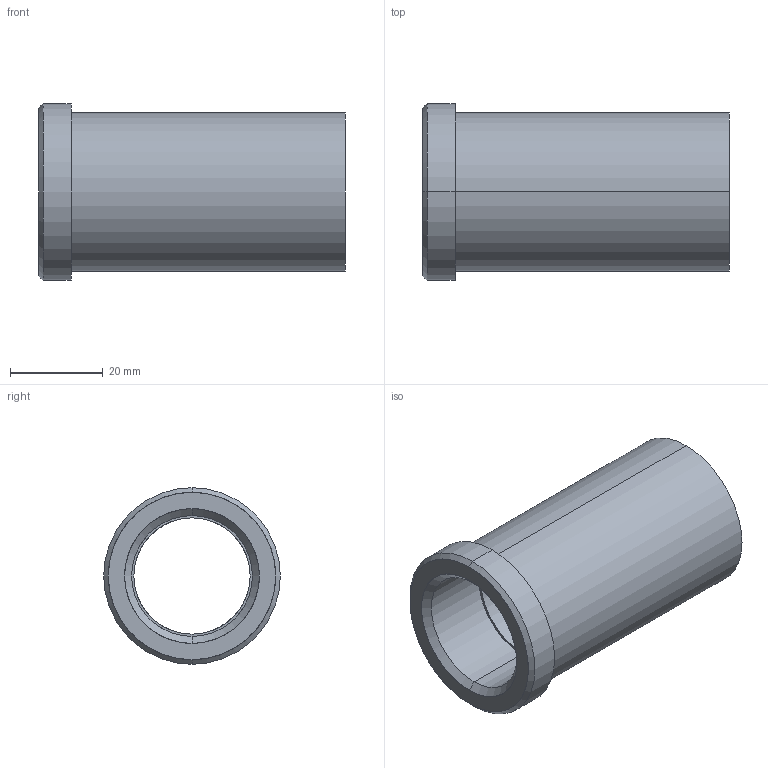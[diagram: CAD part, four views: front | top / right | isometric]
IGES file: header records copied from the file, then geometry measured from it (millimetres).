
Start section: START RECORD GO HERE.
Global section: file name: 353-25X66.igs; native system: DASSAULT SYSTEMES CATIA V5 R20 - www.3ds.com; preprocessor: CATIA Version 5 Release 20 ; author: Utente; organization: NB04-ASUS; date: 20210512.204416; units: millimetre
Bounding box: 66 x 38 x 38 mm (x, y, z)
Surface area: 13452.4 mm2 (no closed solid volume)
Topology: 0 solids, 0 shells, 18 faces, 116 edges, 116 vertices
Faces by surface type: revolution 14, plane 4
